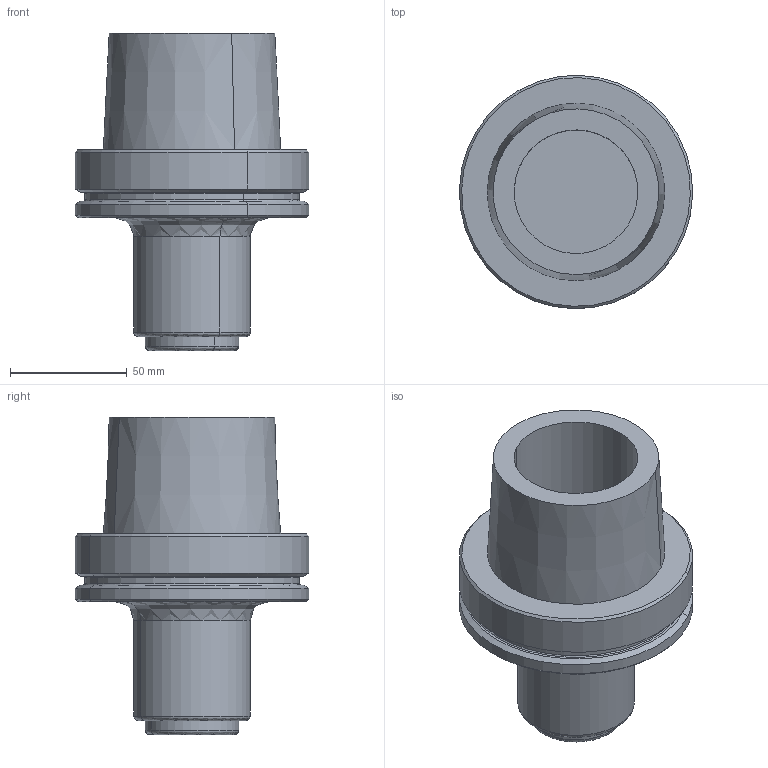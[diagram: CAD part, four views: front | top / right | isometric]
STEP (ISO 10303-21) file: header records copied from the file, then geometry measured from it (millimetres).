
FILE_DESCRIPTION(('CATIA V5 STEP','CAx-IF Rec.Pracs.--- Model Styling and Organization---1.2---2011-12-15'),'2;1');
FILE_NAME('I:\isr\design\admin8\users\weaam_s\4509172L.stp','2018-01-30T09:54:16+00:00',('none'),('none'),'CATIA Version 5 Release 21 SP 5 (IN-10)','CATIA V5 STEP AP214','none');
FILE_SCHEMA(('AUTOMOTIVE_DESIGN { 1 0 10303 214 1 1 1 1 }'));
Length unit declared in the file: millimetre
Products named in the file (1): HSK A 100 ER32 SHORT 
Bounding box: 99.97 x 99.97 x 136 mm (x, y, z)
Volume: 374187.2 mm3; surface area: 59862.5 mm2
Topology: 1 solids, 1 shells, 53 faces, 104 edges, 60 vertices
Faces by surface type: cylinder 18, cone 16, revolution 10, plane 9
Entity records: 1570 total; most frequent: CARTESIAN_POINT 493, ORIENTED_EDGE 208, DIRECTION 160, EDGE_CURVE 104, AXIS2_PLACEMENT_3D 89, CIRCLE 60, EDGE_LOOP 60, VERTEX_POINT 60
